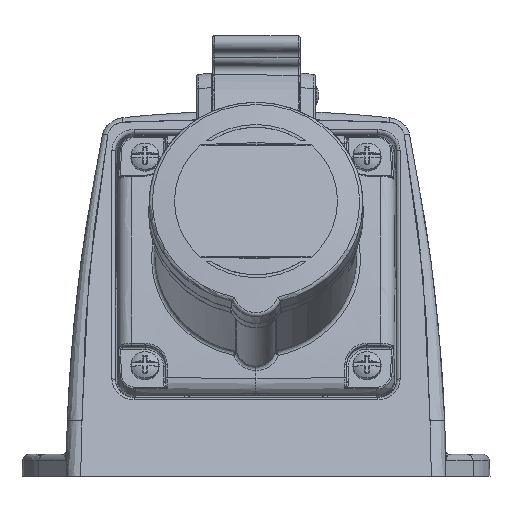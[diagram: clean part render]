
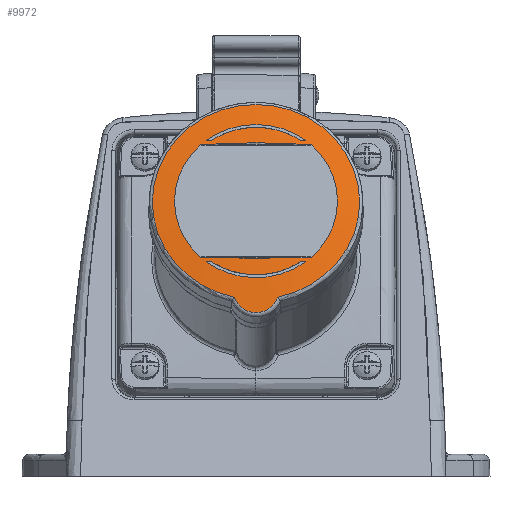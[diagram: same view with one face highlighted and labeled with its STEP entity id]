
A CAD part, front view. The second image highlights one B-rep face of the part: STEP entity #9972.
In plain terms, the highlighted spherical face has radius 220 mm.
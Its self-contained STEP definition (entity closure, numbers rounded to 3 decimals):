
#32=VERTEX_LOOP('',#17475);
#75=SPHERICAL_SURFACE('',#22157,220.);
#4373=B_SPLINE_CURVE_WITH_KNOTS('',3,(#53397,#53398,#53399,#53400,#53401,
#53402,#53403,#53404,#53405,#53406),.UNSPECIFIED.,.F.,.F.,(4,2,2,2,4),(0.,
0.25,0.5,0.75,1.),.UNSPECIFIED.);
#4377=B_SPLINE_CURVE_WITH_KNOTS('',3,(#53642,#53643,#53644,#53645,#53646,
#53647),.UNSPECIFIED.,.F.,.F.,(4,2,4),(0.,0.5,1.),.UNSPECIFIED.);
#4815=FACE_BOUND('',#32,.T.);
#4816=FACE_BOUND('',#11644,.T.);
#4817=FACE_BOUND('',#11645,.T.);
#4818=FACE_BOUND('',#11646,.T.);
#4819=FACE_BOUND('',#11647,.T.);
#9972=ADVANCED_FACE('',(#4815,#4816,#4817,#4818,#4819),#75,.T.);
#11644=EDGE_LOOP('',(#14832,#14833));
#11645=EDGE_LOOP('',(#14834,#14835,#14836,#14837));
#11646=EDGE_LOOP('',(#14838,#14839,#14840,#14841));
#11647=EDGE_LOOP('',(#14842,#14843,#14844,#14845));
#14832=ORIENTED_EDGE('',*,*,#20091,.T.);
#14833=ORIENTED_EDGE('',*,*,#20120,.T.);
#14834=ORIENTED_EDGE('',*,*,#20012,.T.);
#14835=ORIENTED_EDGE('',*,*,#20114,.T.);
#14836=ORIENTED_EDGE('',*,*,#20111,.T.);
#14837=ORIENTED_EDGE('',*,*,#20112,.T.);
#14838=ORIENTED_EDGE('',*,*,#20016,.T.);
#14839=ORIENTED_EDGE('',*,*,#20150,.T.);
#14840=ORIENTED_EDGE('',*,*,#20151,.T.);
#14841=ORIENTED_EDGE('',*,*,#20152,.T.);
#14842=ORIENTED_EDGE('',*,*,#20153,.T.);
#14843=ORIENTED_EDGE('',*,*,#20104,.F.);
#14844=ORIENTED_EDGE('',*,*,#20154,.T.);
#14845=ORIENTED_EDGE('',*,*,#20155,.F.);
#17374=VERTEX_POINT('',#53102);
#17376=VERTEX_POINT('',#53136);
#17377=VERTEX_POINT('',#53140);
#17380=VERTEX_POINT('',#53145);
#17438=VERTEX_POINT('',#53396);
#17439=VERTEX_POINT('',#53407);
#17445=VERTEX_POINT('',#53478);
#17446=VERTEX_POINT('',#53479);
#17450=VERTEX_POINT('',#53524);
#17452=VERTEX_POINT('',#53558);
#17475=VERTEX_POINT('',#53632);
#17476=VERTEX_POINT('',#53634);
#17477=VERTEX_POINT('',#53636);
#17478=VERTEX_POINT('',#53639);
#17479=VERTEX_POINT('',#53641);
#20012=EDGE_CURVE('',#17374,#17376,#21138,.T.);
#20016=EDGE_CURVE('',#17377,#17380,#21140,.T.);
#20091=EDGE_CURVE('',#17439,#17438,#4373,.T.);
#20104=EDGE_CURVE('',#17445,#17446,#21180,.T.);
#20111=EDGE_CURVE('',#17450,#17452,#21183,.T.);
#20112=EDGE_CURVE('',#17452,#17374,#21184,.T.);
#20114=EDGE_CURVE('',#17376,#17450,#21185,.T.);
#20120=EDGE_CURVE('',#17438,#17439,#21187,.T.);
#20150=EDGE_CURVE('',#17380,#17476,#21201,.T.);
#20151=EDGE_CURVE('',#17476,#17477,#21202,.T.);
#20152=EDGE_CURVE('',#17477,#17377,#21203,.T.);
#20153=EDGE_CURVE('',#17478,#17446,#21204,.T.);
#20154=EDGE_CURVE('',#17445,#17479,#21205,.T.);
#20155=EDGE_CURVE('',#17478,#17479,#4377,.T.);
#21138=CIRCLE('',#22050,178.7);
#21140=CIRCLE('',#22053,22.022);
#21180=CIRCLE('',#22118,22.022);
#21183=CIRCLE('',#22122,178.7);
#21184=CIRCLE('',#22124,22.022);
#21185=CIRCLE('',#22125,22.022);
#21187=CIRCLE('',#22131,28.033);
#21201=CIRCLE('',#22152,219.303);
#21202=CIRCLE('',#22153,21.222);
#21203=CIRCLE('',#22154,219.303);
#21204=CIRCLE('',#22155,219.303);
#21205=CIRCLE('',#22156,219.303);
#22050=AXIS2_PLACEMENT_3D('',#53137,#24657,#24658);
#22053=AXIS2_PLACEMENT_3D('',#53146,#24665,#24666);
#22118=AXIS2_PLACEMENT_3D('',#53477,#24825,#24826);
#22122=AXIS2_PLACEMENT_3D('',#53559,#24835,#24836);
#22124=AXIS2_PLACEMENT_3D('',#53561,#24839,#24840);
#22125=AXIS2_PLACEMENT_3D('',#53563,#24842,#24843);
#22131=AXIS2_PLACEMENT_3D('',#53575,#24858,#24859);
#22152=AXIS2_PLACEMENT_3D('',#53633,#24916,#24917);
#22153=AXIS2_PLACEMENT_3D('',#53635,#24918,#24919);
#22154=AXIS2_PLACEMENT_3D('',#53637,#24920,#24921);
#22155=AXIS2_PLACEMENT_3D('',#53638,#24922,#24923);
#22156=AXIS2_PLACEMENT_3D('',#53640,#24924,#24925);
#22157=AXIS2_PLACEMENT_3D('',#53648,#24926,#24927);
#24657=DIRECTION('',(0.,0.342,-0.94));
#24658=DIRECTION('',(0.,0.94,0.342));
#24665=DIRECTION('',(0.,0.94,-0.342));
#24666=DIRECTION('',(-1.,0.,0.));
#24825=DIRECTION('',(0.,-0.94,0.342));
#24826=DIRECTION('',(1.,0.,0.));
#24835=DIRECTION('',(0.,0.866,0.5));
#24836=DIRECTION('',(0.,-0.5,0.866));
#24839=DIRECTION('',(0.,0.94,-0.342));
#24840=DIRECTION('',(-1.,0.,0.));
#24842=DIRECTION('',(0.,0.94,-0.342));
#24843=DIRECTION('',(-1.,0.,0.));
#24858=DIRECTION('',(0.,-0.94,0.342));
#24859=DIRECTION('',(0.,0.342,0.94));
#24916=DIRECTION('',(0.,-0.342,-0.94));
#24917=DIRECTION('',(0.,0.94,-0.342));
#24918=DIRECTION('',(0.,-0.94,0.342));
#24919=DIRECTION('',(-1.,0.,0.));
#24920=DIRECTION('',(0.,-0.342,-0.94));
#24921=DIRECTION('',(0.,0.94,-0.342));
#24922=DIRECTION('',(0.,0.342,0.94));
#24923=DIRECTION('',(0.,0.94,-0.342));
#24924=DIRECTION('',(0.,0.342,0.94));
#24925=DIRECTION('',(0.,0.94,-0.342));
#24926=DIRECTION('',(0.,-0.94,0.342));
#24927=DIRECTION('',(-0.004,-0.342,-0.94));
#53102=CARTESIAN_POINT('',(28.859,-99.879,49.239));
#53136=CARTESIAN_POINT('',(-1.055,-99.879,49.239));
#53137=CARTESIAN_POINT('',(13.902,67.455,110.143));
#53140=CARTESIAN_POINT('',(0.533,-88.366,80.872));
#53145=CARTESIAN_POINT('',(27.271,-88.366,80.872));
#53146=CARTESIAN_POINT('',(13.902,-94.351,64.427));
#53396=CARTESIAN_POINT('',(19.733,-103.082,38.426));
#53397=CARTESIAN_POINT('',(8.072,-103.082,38.426));
#53398=CARTESIAN_POINT('',(8.47,-103.367,37.223));
#53399=CARTESIAN_POINT('',(9.254,-103.617,36.166));
#53400=CARTESIAN_POINT('',(11.338,-103.969,34.68));
#53401=CARTESIAN_POINT('',(12.604,-104.065,34.273));
#53402=CARTESIAN_POINT('',(15.201,-104.065,34.274));
#53403=CARTESIAN_POINT('',(16.467,-103.969,34.68));
#53404=CARTESIAN_POINT('',(18.549,-103.618,36.165));
#53405=CARTESIAN_POINT('',(19.334,-103.367,37.223));
#53406=CARTESIAN_POINT('',(19.733,-103.082,38.426));
#53407=CARTESIAN_POINT('',(8.072,-103.082,38.426));
#53477=CARTESIAN_POINT('',(13.902,-94.351,64.427));
#53478=CARTESIAN_POINT('',(0.534,-100.336,47.982));
#53479=CARTESIAN_POINT('',(27.27,-100.336,47.982));
#53524=CARTESIAN_POINT('',(-1.056,-88.823,79.616));
#53558=CARTESIAN_POINT('',(28.86,-88.823,79.616));
#53559=CARTESIAN_POINT('',(13.902,0.213,-74.6));
#53561=CARTESIAN_POINT('',(13.902,-94.351,64.427));
#53563=CARTESIAN_POINT('',(13.902,-94.351,64.427));
#53575=CARTESIAN_POINT('',(13.902,-93.704,64.192));
#53632=CARTESIAN_POINT('',(0.533,-100.336,47.982));
#53633=CARTESIAN_POINT('',(13.902,117.328,6.006));
#53634=CARTESIAN_POINT('',(25.908,-88.44,80.899));
#53635=CARTESIAN_POINT('',(13.902,-94.425,64.454));
#53636=CARTESIAN_POINT('',(1.897,-88.44,80.899));
#53637=CARTESIAN_POINT('',(13.902,117.328,6.006));
#53638=CARTESIAN_POINT('',(13.902,105.358,-26.884));
#53639=CARTESIAN_POINT('',(25.908,-100.411,48.009));
#53640=CARTESIAN_POINT('',(13.902,105.358,-26.884));
#53641=CARTESIAN_POINT('',(1.897,-100.411,48.009));
#53642=CARTESIAN_POINT('',(25.908,-100.411,48.009));
#53643=CARTESIAN_POINT('',(22.37,-101.241,45.729));
#53644=CARTESIAN_POINT('',(18.17,-101.682,44.515));
#53645=CARTESIAN_POINT('',(9.674,-101.685,44.508));
#53646=CARTESIAN_POINT('',(5.434,-101.241,45.729));
#53647=CARTESIAN_POINT('',(1.897,-100.411,48.009));
#53648=CARTESIAN_POINT('',(13.902,111.343,-10.439));
